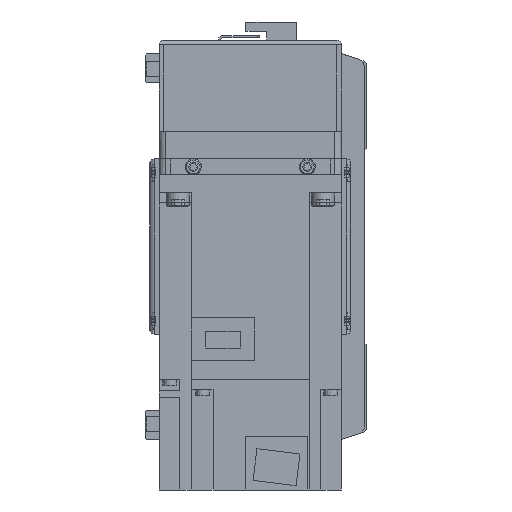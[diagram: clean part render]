
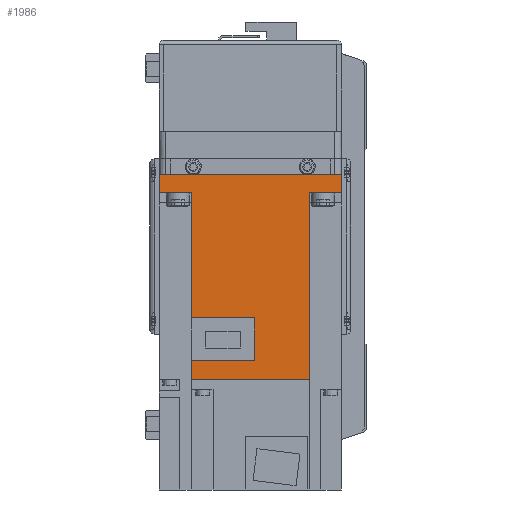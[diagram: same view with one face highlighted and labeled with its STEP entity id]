
A CAD part, left-side view. The second image highlights one B-rep face of the part: STEP entity #1986.
In plain terms, the highlighted planar face has unit normal (-1, 0, 0) as drawn and (1, 0, 0) by its records, which use the part's own axes.
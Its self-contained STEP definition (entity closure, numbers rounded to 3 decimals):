
#1986 = ADVANCED_FACE( '', ( #4776 ), #4777, .F. );
#4776 = FACE_OUTER_BOUND( '', #8580, .T. );
#4777 = PLANE( '', #8581 );
#8580 = EDGE_LOOP( '', ( #14149, #14150, #14151, #14152, #14153, #14154, #14155, #14156, #14157, #14158, #14159, #14160 ) );
#8581 = AXIS2_PLACEMENT_3D( '', #14161, #14162, #14163 );
#14149 = ORIENTED_EDGE( '', *, *, #22877, .F. );
#14150 = ORIENTED_EDGE( '', *, *, #22878, .F. );
#14151 = ORIENTED_EDGE( '', *, *, #22879, .F. );
#14152 = ORIENTED_EDGE( '', *, *, #22880, .T. );
#14153 = ORIENTED_EDGE( '', *, *, #22881, .F. );
#14154 = ORIENTED_EDGE( '', *, *, #22882, .T. );
#14155 = ORIENTED_EDGE( '', *, *, #22883, .T. );
#14156 = ORIENTED_EDGE( '', *, *, #22884, .F. );
#14157 = ORIENTED_EDGE( '', *, *, #22109, .F. );
#14158 = ORIENTED_EDGE( '', *, *, #22885, .F. );
#14159 = ORIENTED_EDGE( '', *, *, #22886, .F. );
#14160 = ORIENTED_EDGE( '', *, *, #22887, .F. );
#14161 = CARTESIAN_POINT( '', ( 40., 89.8, 40. ) );
#14162 = DIRECTION( '', ( -1., 0., 0. ) );
#14163 = DIRECTION( '', ( 0., 0., 1. ) );
#22109 = EDGE_CURVE( '', #26639, #26640, #26641, .T. );
#22877 = EDGE_CURVE( '', #27519, #27902, #27903, .T. );
#22878 = EDGE_CURVE( '', #27904, #27519, #27905, .T. );
#22879 = EDGE_CURVE( '', #27906, #27904, #27907, .T. );
#22880 = EDGE_CURVE( '', #27906, #27908, #27909, .T. );
#22881 = EDGE_CURVE( '', #27910, #27908, #27911, .T. );
#22882 = EDGE_CURVE( '', #27910, #27912, #27913, .T. );
#22883 = EDGE_CURVE( '', #27912, #27914, #27915, .T. );
#22884 = EDGE_CURVE( '', #26640, #27914, #27916, .T. );
#22885 = EDGE_CURVE( '', #27520, #26639, #27917, .T. );
#22886 = EDGE_CURVE( '', #27918, #27520, #27919, .T. );
#22887 = EDGE_CURVE( '', #27902, #27918, #27920, .T. );
#26639 = VERTEX_POINT( '', #33629 );
#26640 = VERTEX_POINT( '', #33630 );
#26641 = LINE( '', #33631, #33632 );
#27519 = VERTEX_POINT( '', #34950 );
#27520 = VERTEX_POINT( '', #34951 );
#27902 = VERTEX_POINT( '', #35484 );
#27903 = LINE( '', #35485, #35486 );
#27904 = VERTEX_POINT( '', #35487 );
#27905 = LINE( '', #35488, #35489 );
#27906 = VERTEX_POINT( '', #35490 );
#27907 = LINE( '', #35491, #35492 );
#27908 = VERTEX_POINT( '', #35493 );
#27909 = LINE( '', #35494, #35495 );
#27910 = VERTEX_POINT( '', #35496 );
#27911 = LINE( '', #35497, #35498 );
#27912 = VERTEX_POINT( '', #35499 );
#27913 = LINE( '', #35500, #35501 );
#27914 = VERTEX_POINT( '', #35502 );
#27915 = LINE( '', #35503, #35504 );
#27916 = LINE( '', #35505, #35506 );
#27917 = LINE( '', #35507, #35508 );
#27918 = VERTEX_POINT( '', #35509 );
#27919 = LINE( '', #35510, #35511 );
#27920 = LINE( '', #35512, #35513 );
#33629 = CARTESIAN_POINT( '', ( 40., 8., -25.95 ) );
#33630 = CARTESIAN_POINT( '', ( 40., 8., -40. ) );
#33631 = CARTESIAN_POINT( '', ( 40., 8., 40. ) );
#33632 = VECTOR( '', #41024, 1000. );
#34950 = CARTESIAN_POINT( '', ( 40., 81.4, -25.95 ) );
#34951 = CARTESIAN_POINT( '', ( 40., 62.8, -25.95 ) );
#35484 = CARTESIAN_POINT( '', ( 40., 81.4, 1.8 ) );
#35485 = CARTESIAN_POINT( '', ( 40., 81.4, -26. ) );
#35486 = VECTOR( '', #42064, 1000. );
#35487 = CARTESIAN_POINT( '', ( 40., 89.8, -25.95 ) );
#35488 = CARTESIAN_POINT( '', ( 40., 158., -25.95 ) );
#35489 = VECTOR( '', #42065, 1000. );
#35490 = CARTESIAN_POINT( '', ( 40., 89.8, 25.95 ) );
#35491 = CARTESIAN_POINT( '', ( 40., 89.8, 40. ) );
#35492 = VECTOR( '', #42066, 1000. );
#35493 = CARTESIAN_POINT( '', ( 40., 8., 25.95 ) );
#35494 = CARTESIAN_POINT( '', ( 40., 158., 25.95 ) );
#35495 = VECTOR( '', #42067, 1000. );
#35496 = CARTESIAN_POINT( '', ( 40., 8., 40. ) );
#35497 = CARTESIAN_POINT( '', ( 40., 8., 40. ) );
#35498 = VECTOR( '', #42068, 1000. );
#35499 = CARTESIAN_POINT( '', ( 40., 0., 40. ) );
#35500 = CARTESIAN_POINT( '', ( 40., 89.8, 40. ) );
#35501 = VECTOR( '', #42069, 1000. );
#35502 = CARTESIAN_POINT( '', ( 40., 0., -40. ) );
#35503 = CARTESIAN_POINT( '', ( 40., 0., 40. ) );
#35504 = VECTOR( '', #42070, 1000. );
#35505 = CARTESIAN_POINT( '', ( 40., 89.8, -40. ) );
#35506 = VECTOR( '', #42071, 1000. );
#35507 = CARTESIAN_POINT( '', ( 40., 158., -25.95 ) );
#35508 = VECTOR( '', #42072, 1000. );
#35509 = CARTESIAN_POINT( '', ( 40., 62.8, 1.8 ) );
#35510 = CARTESIAN_POINT( '', ( 40., 62.8, 1.8 ) );
#35511 = VECTOR( '', #42073, 1000. );
#35512 = CARTESIAN_POINT( '', ( 40., 81.4, 1.8 ) );
#35513 = VECTOR( '', #42074, 1000. );
#41024 = DIRECTION( '', ( 0., 0., -1. ) );
#42064 = DIRECTION( '', ( 0., 0., 1. ) );
#42065 = DIRECTION( '', ( 0., -1., 0. ) );
#42066 = DIRECTION( '', ( 0., 0., -1. ) );
#42067 = DIRECTION( '', ( 0., -1., 0. ) );
#42068 = DIRECTION( '', ( 0., 0., -1. ) );
#42069 = DIRECTION( '', ( 0., -1., 0. ) );
#42070 = DIRECTION( '', ( 0., 0., -1. ) );
#42071 = DIRECTION( '', ( 0., -1., 0. ) );
#42072 = DIRECTION( '', ( 0., -1., 0. ) );
#42073 = DIRECTION( '', ( 0., 0., -1. ) );
#42074 = DIRECTION( '', ( 0., -1., 0. ) );
